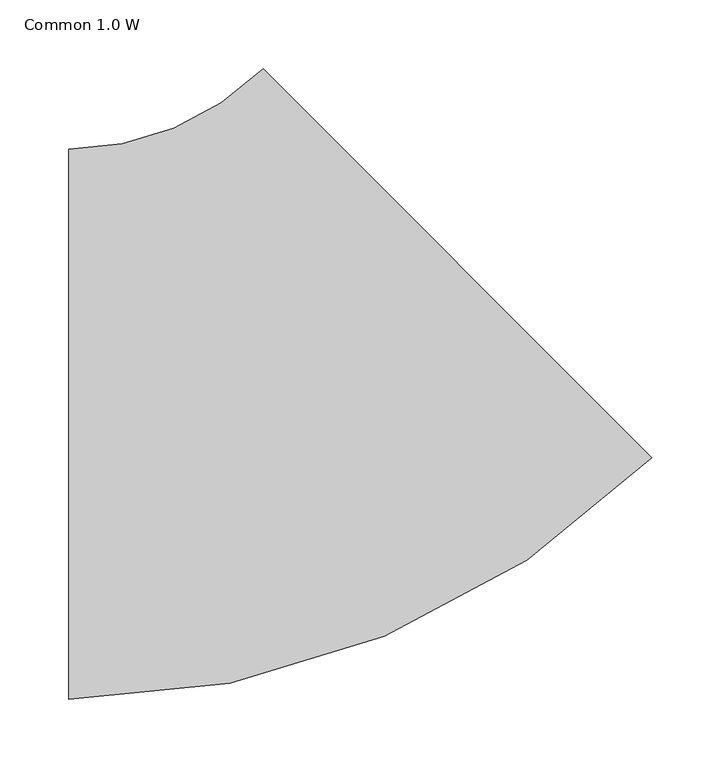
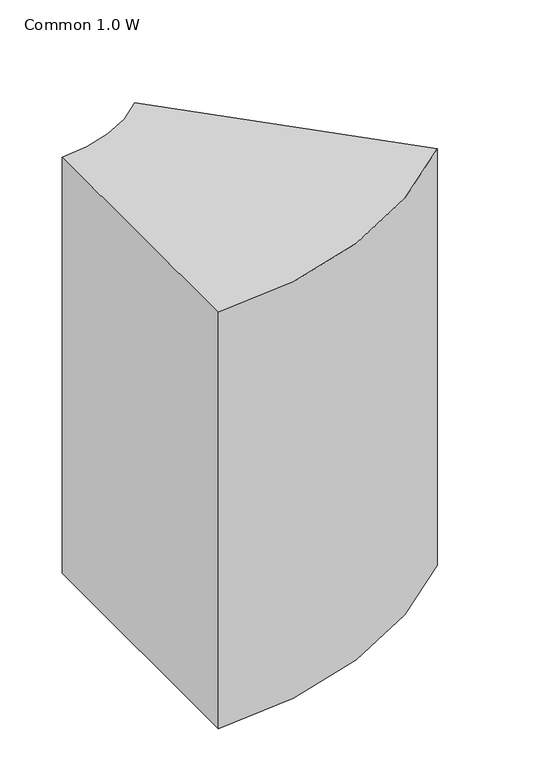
"""IFC4 building model written with IfcOpenShell, lengths in millimetres: duct fitting geometry, 011_角型エルボ - 半径 : Common 1.0 W."""

import ifcopenshell
import ifcopenshell.guid

model = None  # the IFC model being written
_history = None  # IfcOwnerHistory: only IFC2X3 demands one
_inside = {}  # id of a spatial element -> (the spatial element, [elements in it])
_under = {}  # id of a project, library or spatial element -> (it, [spatial elements below it])
_declared = {}  # id of a project -> (the project, [libraries it declares])
_typed = {}  # id of a type object -> (the type object, [elements of that type])
_made_of = {}  # id of a material, layer set ... -> (it, [elements and type objects made of it])


def new_model(schema):
    """Start an empty IFC model of exactly this schema.

    Asked for "IFC4X3", IfcOpenShell would pick the latest addendum, in which some entities
    have other attributes; the version numbers below select the first issue.
    IFC2X3 requires an IfcOwnerHistory on every rooted entity: one is made here for all.
    """
    global model, _history
    if schema == "IFC4X3":
        model = ifcopenshell.file(schema_version=(4, 3, 0, 0))
    else:
        model = ifcopenshell.file(schema=schema)
    _inside.clear()
    _under.clear()
    _declared.clear()
    _typed.clear()
    _made_of.clear()
    _history = None
    if model.schema == "IFC2X3":
        org = make("IfcOrganization", Name="unknown")
        user = make(
            "IfcPersonAndOrganization",
            ThePerson=make("IfcPerson", FamilyName="unknown"),
            TheOrganization=org,
        )
        app = make(
            "IfcApplication",
            ApplicationDeveloper=org,
            Version="unknown",
            ApplicationFullName="unknown",
            ApplicationIdentifier="unknown",
        )
        _history = make(
            "IfcOwnerHistory",
            OwningUser=user,
            OwningApplication=app,
            ChangeAction="ADDED",
            CreationDate=0,
        )
    return model


def make(cls, **values):
    """One entity of the class cls with the attributes given. An attribute that is None is left unset."""
    return model.create_entity(
        cls, **{name: value for name, value in values.items() if value is not None}
    )


def rooted(cls, **values):
    """An entity with a GlobalId (a new one), such as an element, a storey or a relation."""
    return make(cls, GlobalId=ifcopenshell.guid.new(), OwnerHistory=_history, **values)


def si_unit(unit_type, name, prefix=None):
    """IfcSIUnit, for example si_unit("LENGTHUNIT", "METRE", prefix="MILLI")."""
    return make("IfcSIUnit", UnitType=unit_type, Prefix=prefix, Name=name)


def assignment(units):
    """IfcUnitAssignment: the units of a project."""
    return None if units is None else make("IfcUnitAssignment", Units=units)


def point(xyz):
    """IfcCartesianPoint."""
    return None if xyz is None else make("IfcCartesianPoint", Coordinates=xyz)


def direction(xyz):
    """IfcDirection."""
    return None if xyz is None else make("IfcDirection", DirectionRatios=xyz)


def frame(location, z_axis=None, x_axis=None):
    """IfcAxis2Placement3D, a coordinate frame: its origin and axes. An axis left out is left unset."""
    return make(
        "IfcAxis2Placement3D",
        Location=point(location),
        Axis=direction(z_axis),
        RefDirection=direction(x_axis),
    )


def frame_2d(location, x_axis=None):
    """IfcAxis2Placement2D, a coordinate frame in the plane: its origin and x axis."""
    return make(
        "IfcAxis2Placement2D", Location=point(location), RefDirection=direction(x_axis)
    )


def origin():
    """The frame at (0, 0, 0) with its axes left unset."""
    return frame((0.0, 0.0, 0.0))


def place(relative_to, where):
    """IfcLocalPlacement: puts the frame where relative to a parent placement (None: the world)."""
    return make(
        "IfcLocalPlacement", PlacementRelTo=relative_to, RelativePlacement=where
    )


def context(
    kind, dimensions, precision=None, world=None, true_north=None, identifier=None
):
    """IfcGeometricRepresentationContext, for example the 3D "Model" context."""
    return make(
        "IfcGeometricRepresentationContext",
        ContextIdentifier=identifier,
        ContextType=kind,
        CoordinateSpaceDimension=dimensions,
        Precision=precision,
        WorldCoordinateSystem=world,
        TrueNorth=true_north,
    )


def project(units=None, contexts=None):
    """IfcProject with its units and contexts."""
    return rooted(
        "IfcProject",
        Name="project",
        RepresentationContexts=contexts,
        UnitsInContext=assignment(units),
    )


def spatial(cls, under=None, at=None, **own):
    """A site, building, storey or space (cls), placed at a placement, below another one or the project."""
    s = rooted(cls, ObjectPlacement=at, **own)
    if under is not None:
        _under.setdefault(under.id(), (under, []))[1].append(s)
    return s


def polyline(points):
    """IfcPolyline through the points."""
    return make("IfcPolyline", Points=[point(p) for p in points])


def circle_curve(where, radius):
    """IfcCircle in the frame where."""
    return make("IfcCircle", Position=where, Radius=radius)


def trimmed(basis, trim1, trim2, sense, master):
    """IfcTrimmedCurve: the piece of a basis curve between two trims."""
    return make(
        "IfcTrimmedCurve",
        BasisCurve=basis,
        Trim1=trim1,
        Trim2=trim2,
        SenseAgreement=sense,
        MasterRepresentation=master,
    )


def segment(curve, same_sense, transition):
    """IfcCompositeCurveSegment."""
    return make(
        "IfcCompositeCurveSegment",
        Transition=transition,
        SameSense=same_sense,
        ParentCurve=curve,
    )


def composite_curve(segments, self_intersect=None):
    """IfcCompositeCurve: segments joined end to end."""
    return make("IfcCompositeCurve", Segments=segments, SelfIntersect=self_intersect)


def outline(outer, holes=None, kind="AREA"):
    """IfcArbitraryClosedProfileDef: a profile drawn as a closed curve; with holes, ...WithVoids."""
    if holes is None:
        return make("IfcArbitraryClosedProfileDef", ProfileType=kind, OuterCurve=outer)
    return make(
        "IfcArbitraryProfileDefWithVoids",
        ProfileType=kind,
        OuterCurve=outer,
        InnerCurves=holes,
    )


def extrude(swept, where, along, depth):
    """IfcExtrudedAreaSolid: the profile swept, set in the frame where, extruded along a direction by depth."""
    return make(
        "IfcExtrudedAreaSolid",
        SweptArea=swept,
        Position=where,
        ExtrudedDirection=direction(along),
        Depth=depth,
    )


def shape(context_of_items, identifier, shape_type, items):
    """IfcShapeRepresentation: the items that make up one representation, for example the "Body"."""
    return make(
        "IfcShapeRepresentation",
        ContextOfItems=context_of_items,
        RepresentationIdentifier=identifier,
        RepresentationType=shape_type,
        Items=items,
    )


def source(mapping_origin, context_of_items, identifier, shape_type, items):
    """IfcRepresentationMap: a shape defined once, which mapped items show again and again."""
    return make(
        "IfcRepresentationMap",
        MappingOrigin=mapping_origin,
        MappedRepresentation=shape(context_of_items, identifier, shape_type, items),
    )


def transform(
    local_origin,
    x_axis=None,
    y_axis=None,
    z_axis=None,
    scale=None,
    scale2=None,
    scale3=None,
    uniform=True,
):
    """IfcCartesianTransformationOperator3D, or its non-uniform kind. x_axis, y_axis, z_axis: its Axis1, 2, 3."""
    if uniform:
        return make(
            "IfcCartesianTransformationOperator3D",
            Axis1=direction(x_axis),
            Axis2=direction(y_axis),
            LocalOrigin=point(local_origin),
            Scale=scale,
            Axis3=direction(z_axis),
        )
    return make(
        "IfcCartesianTransformationOperator3DnonUniform",
        Axis1=direction(x_axis),
        Axis2=direction(y_axis),
        LocalOrigin=point(local_origin),
        Scale=scale,
        Axis3=direction(z_axis),
        Scale2=scale2,
        Scale3=scale3,
    )


def mapped(mapping_source, mapping_target):
    """IfcMappedItem: shows the shape of a source again, moved by a transform."""
    return make(
        "IfcMappedItem", MappingSource=mapping_source, MappingTarget=mapping_target
    )


def made_of(thing, what):
    """Note that an element or type object is made of a material, layer set ...; save() writes the relation."""
    if what is not None:
        _made_of.setdefault(what.id(), (what, []))[1].append(thing)
    return thing


def element(
    cls,
    number,
    at=None,
    inside=None,
    cuts=None,
    type_object=None,
    material=None,
    context=None,
    identifier="Body",
    shape_type=None,
    held_by="IfcProductDefinitionShape",
    body=None,
    shapes=None,
    **own,
):
    """One element of the class cls, such as IfcWall. Its Tag is "e" and its number.

    at: its placement. inside: the storey or other place that contains it. cuts: it is an
    opening in that element (IfcRelVoidsElement). A single representation is given by context,
    identifier, shape_type and body (its items); several are given by shapes. held_by: the class
    of the entity that holds the representations. save() writes the other relations.
    """
    e = rooted(cls, Tag="e%d" % number, ObjectPlacement=at, **own)
    if body is not None:
        shapes = [shape(context, identifier, shape_type, body)]
    if shapes is not None:
        e.Representation = make(held_by, Representations=shapes)
    if inside is not None:
        _inside.setdefault(inside.id(), (inside, []))[1].append(e)
    if cuts is not None:
        rooted(
            "IfcRelVoidsElement", RelatingBuildingElement=cuts, RelatedOpeningElement=e
        )
    if type_object is not None:
        _typed.setdefault(type_object.id(), (type_object, []))[1].append(e)
    return made_of(e, material)


def aggregate(whole, parts):
    """IfcRelAggregates: a whole, such as a stair, and the parts it consists of."""
    return rooted("IfcRelAggregates", RelatingObject=whole, RelatedObjects=parts)


def save(model, path):
    """Write the relations noted so far, then the file.

    IfcRelAggregates (storeys below a building ...), IfcRelContainedInSpatialStructure (elements
    in a storey), IfcRelDefinesByType, IfcRelAssociatesMaterial and IfcRelDeclares: one each for
    every whole, place, type object, material and project.
    """
    for whole, parts in _under.values():
        aggregate(whole, parts)
    for where, things in _inside.values():
        rooted(
            "IfcRelContainedInSpatialStructure",
            RelatedElements=things,
            RelatingStructure=where,
        )
    for kind, things in _typed.values():
        rooted("IfcRelDefinesByType", RelatedObjects=things, RelatingType=kind)
    for what, things in _made_of.values():
        rooted("IfcRelAssociatesMaterial", RelatedObjects=things, RelatingMaterial=what)
    for by, libraries in _declared.values():
        rooted("IfcRelDeclares", RelatingContext=by, RelatedDefinitions=libraries)
    model.write(path)


def common_1_0_w_7135a4aa(model_context):
    return source(origin(), model_context, "Body", "SweptSolid", [
        extrude(outline(composite_curve([segment(trimmed(circle_curve(frame_2d((-165.6854249, 400.0)), 600.0), [point((258.5786438, -24.2640687))], [point((-165.6854249, -200.0))], False, "CARTESIAN"), True, "CONTINUOUS"), segment(polyline([(-165.6854249, -200.0), (-165.6854249, 200.0)]), True, "CONTINUOUS"), segment(trimmed(circle_curve(frame_2d((-165.6854249, 400.0)), 200.0), [point((-165.6854249, 200.0))], [point((-24.2640687, 258.5786438))], True, "CARTESIAN"), True, "CONTINUOUS"), segment(polyline([(-24.2640687, 258.5786438), (258.5786438, -24.2640687)]), True, "CONTINUOUS")], self_intersect=False)), frame((0.0, 0.0, -325.0), z_axis=(0.0, 0.0, 1.0), x_axis=(1.0, 0.0, 0.0)), (0.0, 0.0, 1.0), 650.0),
    ])


if __name__ == "__main__":
    model = new_model("IFC4")
    model_context = context("Model", 3, world=origin())
    ifc_project = project(units=[si_unit("LENGTHUNIT", "METRE", prefix="MILLI")], contexts=[model_context])
    site = spatial("IfcSite", under=ifc_project)
    building = spatial("IfcBuilding", under=site)
    placement = place(None, origin())
    common_1_0_w_shape = common_1_0_w_7135a4aa(model_context)
    element("IfcDuctFitting", 1, ObjectType="011_角型エルボ - 半径 : Common 1.0 W", at=placement, inside=building, context=model_context, shape_type="MappedRepresentation", body=[
        mapped(common_1_0_w_shape, transform((0.0, 0.0, 0.0), x_axis=(1.0, 0.0, 0.0), y_axis=(0.0, 1.0, 0.0), z_axis=(0.0, 0.0, 1.0))),
    ])
    save(model, "model.ifc")
